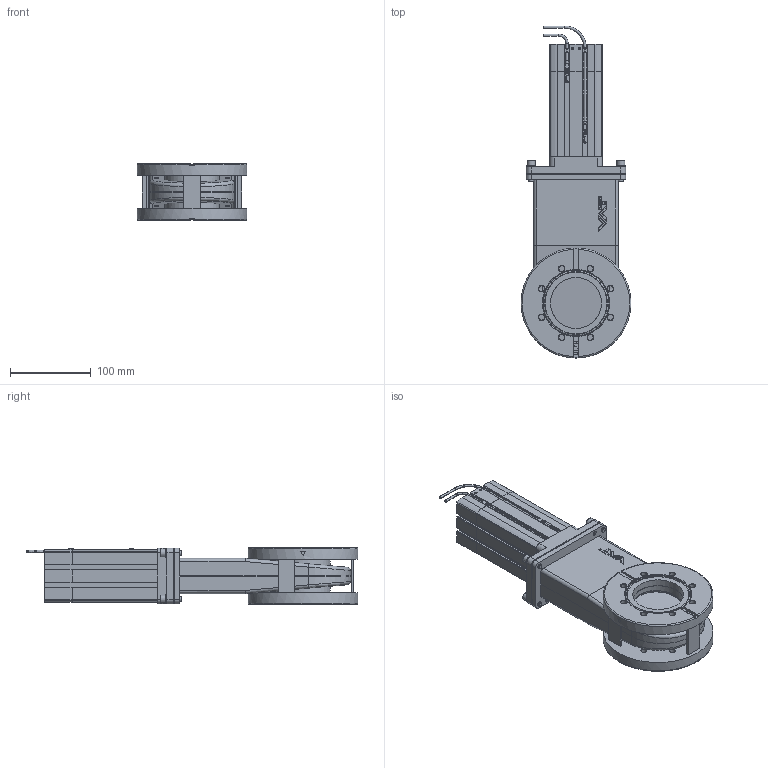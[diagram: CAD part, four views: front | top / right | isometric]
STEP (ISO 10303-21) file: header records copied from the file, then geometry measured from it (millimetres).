
FILE_DESCRIPTION(/* description */ (''),/* implementation_level */ '2;1');
FILE_NAME(/* name */ '1153556392_203.stp',/* time_stamp */ '2019-11-25T09:11:46+01:00',/* author */ (''),/* organization */ (''),/* preprocessor_version */ 'ST-DEVELOPER v16',/* originating_system */ 'SIEMENS PLM Software NX 11.0',/* authorisation */ '');
FILE_SCHEMA (('AP203_CONFIGURATION_CONTROLLED_3D_DESIGN_OF_MECHANICAL_PARTS_AND_ASSEMBLIES_MIM_LF { 1 0 10303 403 2 1 2}'));
Length unit declared in the file: millimetre
Products named in the file (23): 461638_28583ID; 487660; 461638_28570ID; 359586.6_28485ID; 255554.2_28487ID; 359586.6_28491ID; 707259; 706312; 527371; 251262.4; 255557.2; 326972.2_28621ID; 326972.2; 255550.3; n-6134-408; 218189; 759778_NX-ARRAGMNTAbstand_85; 759778_NX-ARRAGMNTAbstand_10; 706311_NX-ARRAGMNTAntrieb_v2_09x36-DN063, 2xLM Kabelaustritt hinten; 527370_NX-ARRAGMNTMassbild; 359599.5_NX-ARRAGMNTZusammenstellung_STANDARD; 420633; 711564
Assembly tree (32 placements, depth 4):
  711564
    218189  x4
    n-6134-408  x4
    255550.3
    420633
      326972.2
      326972.2_28621ID
      359599.5_NX-ARRAGMNTZusammenstellung_STANDARD
        359586.6_28491ID
        255554.2_28487ID
        359586.6_28485ID
      255557.2  x2
      251262.4  x3
    527370_NX-ARRAGMNTMassbild
      527371
    706311_NX-ARRAGMNTAntrieb_v2_09x36-DN063, 2xLM Kabelaustritt hinten
      706312
      707259
      759778_NX-ARRAGMNTAbstand_10
        461638_28570ID
        487660
      759778_NX-ARRAGMNTAbstand_85
        461638_28583ID
        487660
Bounding box: 135.8 x 410.35 x 70 mm (x, y, z)
Volume: 975212.5 mm3; surface area: 473545.9 mm2
Topology: 36 solids, 38 shells, 1706 faces, 4698 edges, 3166 vertices
Faces by surface type: plane 893, cylinder 492, bspline 178, cone 107, torus 27, sphere 8, extrusion 1
Full cylindrical faces by diameter (mm): 1 x4, 1.2 x2, 2.3 x2, 2.5 x7, 2.9 x1, 3.8 x5, 4 x1, 4.2 x2, 4.96 x4, 5 x12, 5.2 x2, 5.22 x4, 5.774 x1, 6 x8, 6.4 x4, 6.5 x8, 6.8 x5, 7 x1, 7.145 x16, 8 x2, 8.1 x1, 8.566 x1, 10 x9, 10.4 x1, 10.5 x4, 10.6 x4, 11 x8, 11.6 x4, 13.7 x1, 14 x2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
Entity records: 61414 total; most frequent: CARTESIAN_POINT 21809, ORIENTED_EDGE 7376, DIRECTION 6435, EDGE_CURVE 3688, VERTEX_POINT 2634, AXIS2_PLACEMENT_3D 2407, EDGE_LOOP 1977, VECTOR 1621
